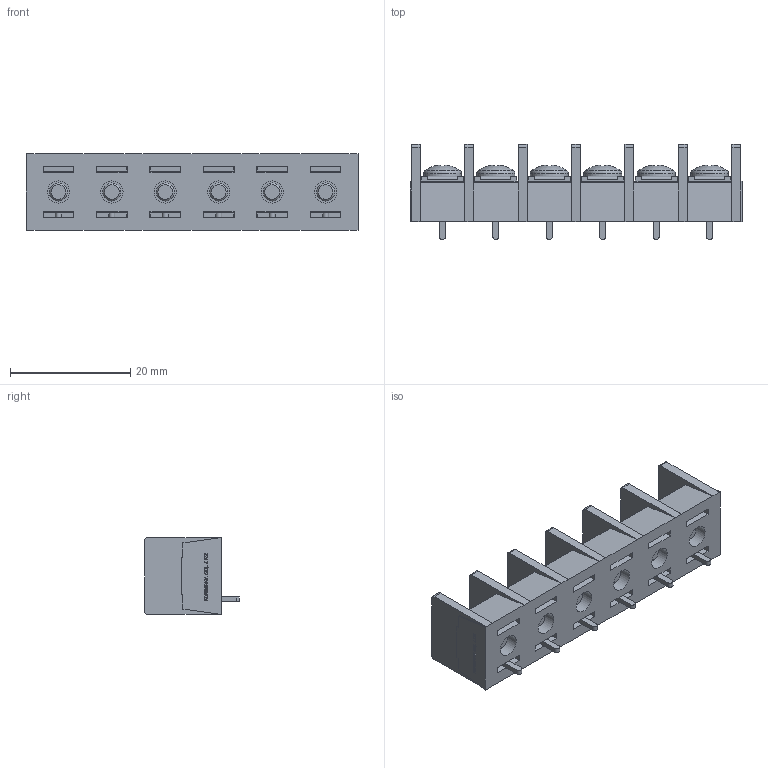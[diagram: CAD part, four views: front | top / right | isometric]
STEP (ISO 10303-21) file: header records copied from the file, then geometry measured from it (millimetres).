
FILE_DESCRIPTION(/* description */ ('Alibre Inc.'),/* implementation_level */ '2;1');
FILE_NAME(/* name */ 'export0',/* time_stamp */ '2015-10-20T19:41:34+09:00',/* author */ (''),/* organization */ (''),/* preprocessor_version */ 'ST-DEVELOPER v14',/* originating_system */ 'Alibre',/* authorisation */ '');
FILE_SCHEMA (('CONFIG_CONTROL_DESIGN'));
Length unit declared in the file: centimetre
Products named in the file (1): ID_1
Bounding box: 55.25 x 15.8 x 12.8 mm (x, y, z)
Volume: 5159.3 mm3; surface area: 6439.5 mm2
Topology: 1 solids, 103 shells, 2076 faces, 5342 edges, 3536 vertices
Faces by surface type: plane 1550, bspline 416, cylinder 62, cone 30, torus 12, sphere 6
Full cylindrical faces by diameter (mm): 3 x12, 3.7 x6, 4.6 x6, 6.3 x6
Entity records: 60075 total; most frequent: CARTESIAN_POINT 14603, ORIENTED_EDGE 10552, DIRECTION 6232, EDGE_CURVE 5276, VECTOR 4072, LINE 4072, VERTEX_POINT 3518, EDGE_LOOP 2272
